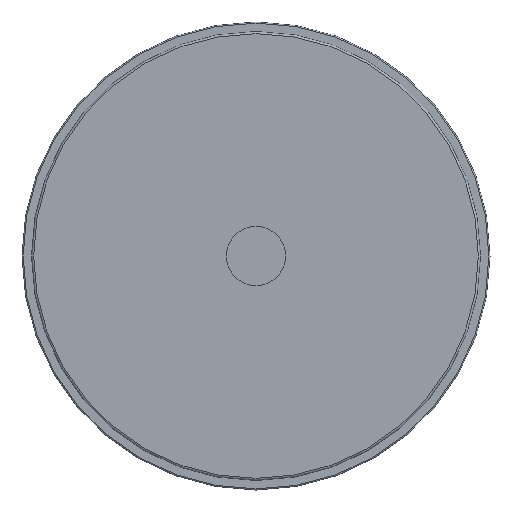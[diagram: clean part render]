
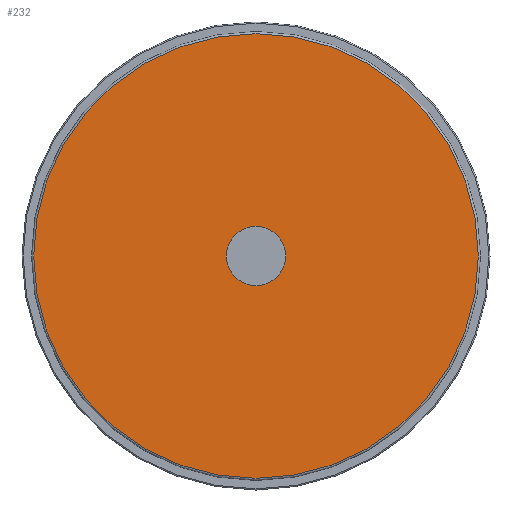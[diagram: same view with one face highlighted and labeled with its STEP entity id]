
A CAD part, left-side view. The second image highlights one B-rep face of the part: STEP entity #232.
In plain terms, the highlighted planar face has unit normal (-1, 0, 0).
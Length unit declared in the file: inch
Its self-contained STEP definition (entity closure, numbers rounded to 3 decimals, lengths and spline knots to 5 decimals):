
#46=FACE_BOUND('',#75,.T.);
#52=PLANE('',#281);
#62=FACE_OUTER_BOUND('',#74,.T.);
#74=EDGE_LOOP('',(#193,#194));
#75=EDGE_LOOP('',(#195));
#89=CIRCLE('',#258,0.42);
#103=CIRCLE('',#277,3.1475);
#104=CIRCLE('',#278,3.1475);
#111=VERTEX_POINT('',#404);
#124=VERTEX_POINT('',#437);
#125=VERTEX_POINT('',#439);
#132=EDGE_CURVE('',#111,#111,#89,.T.);
#147=EDGE_CURVE('',#124,#125,#103,.T.);
#148=EDGE_CURVE('',#125,#124,#104,.T.);
#193=ORIENTED_EDGE('',*,*,#148,.F.);
#194=ORIENTED_EDGE('',*,*,#147,.F.);
#195=ORIENTED_EDGE('',*,*,#132,.T.);
#232=ADVANCED_FACE('',(#62,#46),#52,.T.);
#258=AXIS2_PLACEMENT_3D('',#406,#309,#310);
#277=AXIS2_PLACEMENT_3D('',#440,#348,#349);
#278=AXIS2_PLACEMENT_3D('',#441,#350,#351);
#281=AXIS2_PLACEMENT_3D('',#445,#357,#358);
#309=DIRECTION('center_axis',(1.,0.,0.));
#310=DIRECTION('ref_axis',(0.,0.,-1.));
#348=DIRECTION('center_axis',(1.,0.,0.));
#349=DIRECTION('ref_axis',(0.,-1.,0.));
#350=DIRECTION('center_axis',(1.,0.,0.));
#351=DIRECTION('ref_axis',(0.,-1.,0.));
#357=DIRECTION('center_axis',(-1.,0.,0.));
#358=DIRECTION('ref_axis',(0.,0.,1.));
#404=CARTESIAN_POINT('',(0.,0.,0.42));
#406=CARTESIAN_POINT('Origin',(0.,0.,0.));
#437=CARTESIAN_POINT('',(0.,0.,3.1475));
#439=CARTESIAN_POINT('',(0.,3.1475,0.));
#440=CARTESIAN_POINT('Origin',(0.,0.,0.));
#441=CARTESIAN_POINT('Origin',(0.,0.,0.));
#445=CARTESIAN_POINT('Origin',(0.,3.1775,0.));
